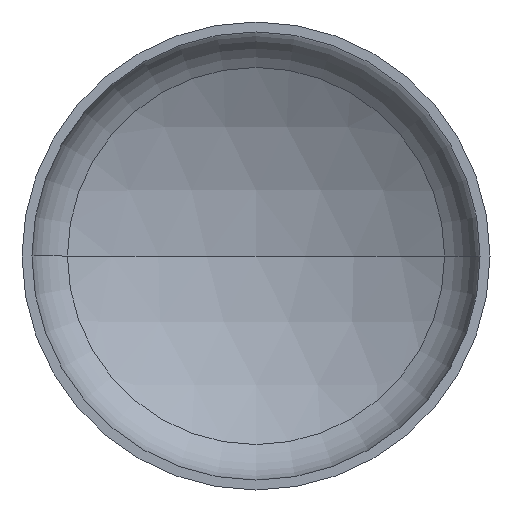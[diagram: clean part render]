
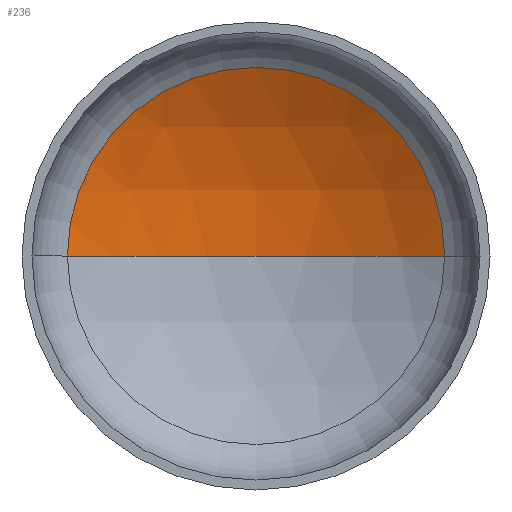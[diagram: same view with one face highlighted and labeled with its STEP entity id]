
A CAD part, front view. The second image highlights one B-rep face of the part: STEP entity #236.
In plain terms, the highlighted spherical face has radius 1360 mm.
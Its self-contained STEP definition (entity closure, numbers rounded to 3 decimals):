
#11 = VERTEX_POINT ( 'NONE', #246 ) ;
#18 = AXIS2_PLACEMENT_3D ( 'NONE', #160, #296, #273 ) ;
#33 = AXIS2_PLACEMENT_3D ( 'NONE', #306, #303, #302 ) ;
#38 = AXIS2_PLACEMENT_3D ( 'NONE', #309, #322, #317 ) ;
#39 = AXIS2_PLACEMENT_3D ( 'NONE', #295, #294, #293 ) ;
#69 = ORIENTED_EDGE ( 'NONE', *, *, #100, .T. ) ;
#82 = VERTEX_POINT ( 'NONE', #319 ) ;
#88 = ORIENTED_EDGE ( 'NONE', *, *, #102, .T. ) ;
#90 = ORIENTED_EDGE ( 'NONE', *, *, #104, .F. ) ;
#100 = EDGE_CURVE ( 'NONE', #82, #118, #394, .T. ) ;
#102 = EDGE_CURVE ( 'NONE', #11, #82, #146, .T. ) ;
#104 = EDGE_CURVE ( 'NONE', #11, #118, #265, .T. ) ;
#118 = VERTEX_POINT ( 'NONE', #307 ) ;
#123 = EDGE_LOOP ( 'NONE', ( #90, #88, #69 ) ) ;
#130 = SPHERICAL_SURFACE ( 'NONE', #18, 1360. ) ;
#146 = CIRCLE ( 'NONE', #38, 1360. ) ;
#160 = CARTESIAN_POINT ( 'NONE',  ( 0., -840.307, 0. ) ) ;
#236 = ADVANCED_FACE ( 'NONE', ( #389 ), #130, .F. ) ;
#246 = CARTESIAN_POINT ( 'NONE',  ( 0., 519.693, 0. ) ) ;
#265 = CIRCLE ( 'NONE', #33, 1360. ) ;
#273 = DIRECTION ( 'NONE',  ( -1., 0., 0. ) ) ;
#293 = DIRECTION ( 'NONE',  ( 1., 0., 0. ) ) ;
#294 = DIRECTION ( 'NONE',  ( 0., -1., 0. ) ) ;
#295 = CARTESIAN_POINT ( 'NONE',  ( 0., 334.618, 0. ) ) ;
#296 = DIRECTION ( 'NONE',  ( 0., 0., -1. ) ) ;
#302 = DIRECTION ( 'NONE',  ( 1., 0., 0. ) ) ;
#303 = DIRECTION ( 'NONE',  ( 0., 0., 1. ) ) ;
#306 = CARTESIAN_POINT ( 'NONE',  ( 0., -840.307, 0. ) ) ;
#307 = CARTESIAN_POINT ( 'NONE',  ( -684.945, 334.618, 0. ) ) ;
#309 = CARTESIAN_POINT ( 'NONE',  ( 0., -840.307, 0. ) ) ;
#317 = DIRECTION ( 'NONE',  ( -1., 0., 0. ) ) ;
#319 = CARTESIAN_POINT ( 'NONE',  ( 684.945, 334.618, 0. ) ) ;
#322 = DIRECTION ( 'NONE',  ( 0., 0., -1. ) ) ;
#389 = FACE_OUTER_BOUND ( 'NONE', #123, .T. ) ;
#394 = CIRCLE ( 'NONE', #39, 684.945 ) ;
